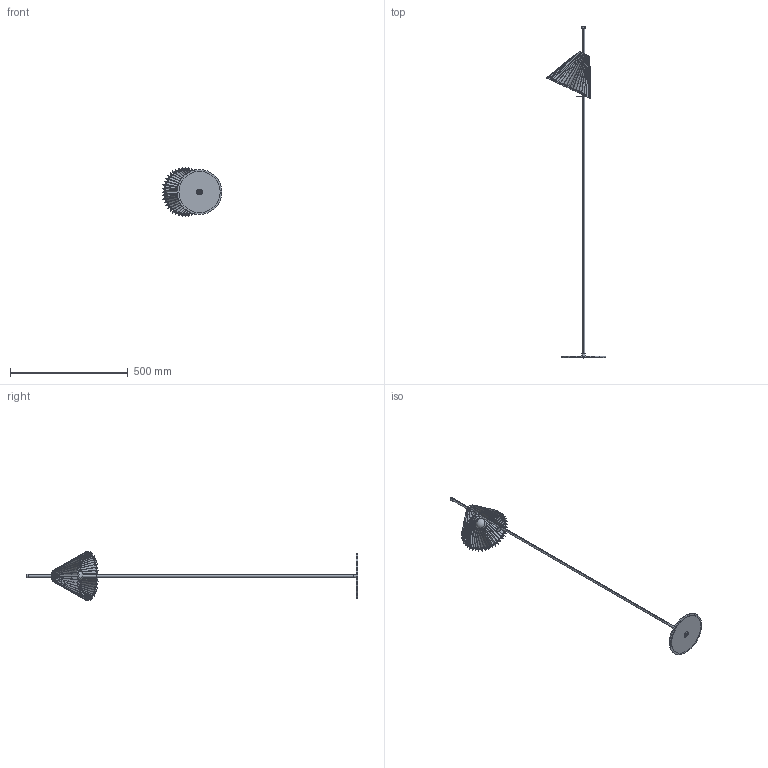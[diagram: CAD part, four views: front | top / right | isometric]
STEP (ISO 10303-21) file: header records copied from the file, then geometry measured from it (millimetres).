
FILE_DESCRIPTION (( 'STEP AP203' ), '1' );
FILE_NAME ('Coquete Peu Web.STEP', '2025-10-15T12:49:06', ( '' ), ( '' ), 'SwSTEP 2.0', 'SolidWorks 2013', '' );
FILE_SCHEMA (( 'CONFIG_CONTROL_DESIGN' ));
Length unit declared in the file: millimetre
Products named in the file (12): Pantalla; ME024.1_Chapa 2mm GUIA (FORATS PETITS); ME022_Tap Ø14x10 M10; Tapa 3D iman 25x23x4mm; Bombeta LED Ø45; ME021_Tija Ø10x1400mm; GI460_Disc base Ø190x5_; Coquete Peu Web; Chapa base + Aro Ø190; Portalampades 26,5x56mm; AI016_Base cautxu Ø175; ME023_Tap Passant Ø14x10mm M10
Assembly tree (11 placements, depth 2):
  Coquete Peu Web
    ME021_Tija Ø10x1400mm
    Chapa base + Aro Ø190
    ME024.1_Chapa 2mm GUIA (FORATS PETITS)
    Pantalla
    ME022_Tap Ø14x10 M10
    ME023_Tap Passant Ø14x10mm M10
    GI460_Disc base Ø190x5_
    AI016_Base cautxu Ø175
    Tapa 3D iman 25x23x4mm
    Portalampades 26,5x56mm
    Bombeta LED Ø45
Bounding box: 254.2 x 1408 x 209.86 mm (x, y, z)
Volume: 436276.4 mm3; surface area: 576066.7 mm2
Topology: 13 solids, 13 shells, 496 faces, 1360 edges, 889 vertices
Faces by surface type: torus 182, bspline 172, cylinder 70, plane 60, cone 6, sphere 6
Entity records: 28191 total; most frequent: CARTESIAN_POINT 14871, ORIENTED_EDGE 2698, DIRECTION 2023, EDGE_CURVE 1349, VERTEX_POINT 886, EDGE_LOOP 699, AXIS2_PLACEMENT_3D 680, VECTOR 663
